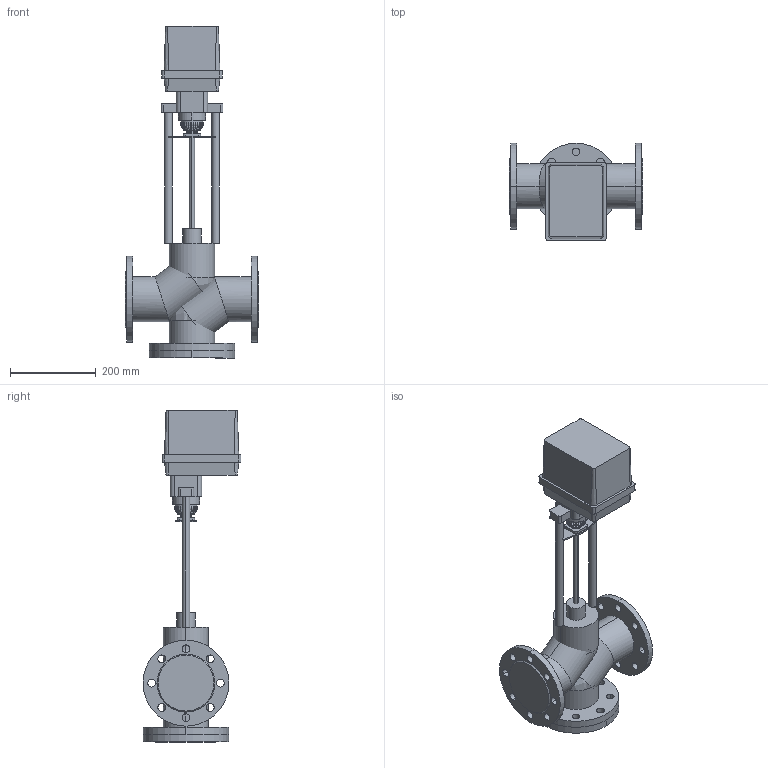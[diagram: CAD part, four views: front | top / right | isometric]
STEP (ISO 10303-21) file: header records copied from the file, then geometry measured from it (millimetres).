
FILE_DESCRIPTION(/* description */ (''),/* implementation_level */ '2;1');
FILE_NAME(/* name */ 'ТРК DN80 PN 1.6 МПа Regada ST0.1',/* time_stamp */ '2026-07-14T23:19:04+03:00',/* author */ (''),/* organization */ (''),/* preprocessor_version */ 'ST-DEVELOPER v20',/* originating_system */ '',/* authorisation */ '');
FILE_SCHEMA (('AP242_MANAGED_MODEL_BASED_3D_ENGINEERING_MIM_LF { 1 0 10303 442 1 1 4 }'));
Length unit declared in the file: millimetre
Products named in the file (14): TopLevelAssembly; Выдавливание; Модификатор; Модификатор_1; Выдавливание_
1; Выдавливание_
2; Вращение; Выдавливание_
3; Выдавливание_
4; Привод_Regada ST 01; Переход; Объемная геометрия 
присоединена; Полый Выдавливание; Объемная геометрия 
присоединена_1
Assembly tree (13 placements, depth 2):
  TopLevelAssembly
    Выдавливание
    Модификатор
    Модификатор_1
    Выдавливание_
1
    Выдавливание_
2
    Вращение
    Выдавливание_
3
    Выдавливание_
4
    Привод_Regada ST 01
    Переход
    Объемная геометрия 
присоединена
    Полый Выдавливание
    Объемная геометрия 
присоединена_1
Bounding box: 310 x 227.99 x 773 mm (x, y, z)
Volume: 10760604.9 mm3; surface area: 957800.5 mm2
Topology: 23 solids, 23 shells, 244 faces, 550 edges, 346 vertices
Faces by surface type: cylinder 110, plane 88, bspline 42, cone 4
Entity records: 8088 total; most frequent: CARTESIAN_POINT 1939, DIRECTION 1288, ORIENTED_EDGE 1084, EDGE_CURVE 542, AXIS2_PLACEMENT_3D 517, VERTEX_POINT 346, EDGE_LOOP 298, CIRCLE 280
